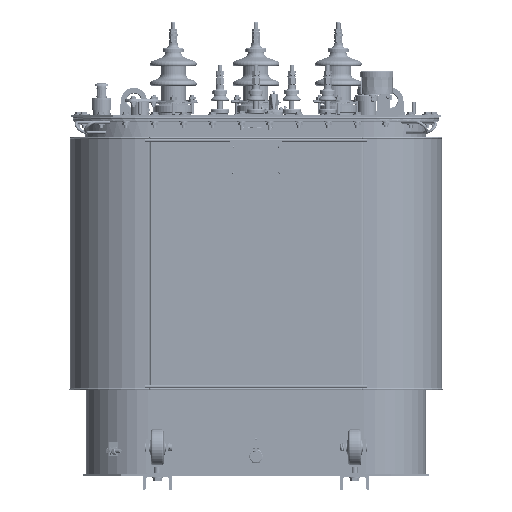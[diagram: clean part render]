
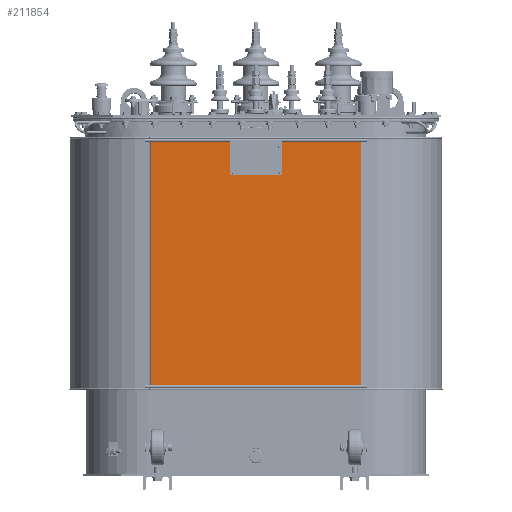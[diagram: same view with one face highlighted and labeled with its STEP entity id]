
A CAD part, front view. The second image highlights one B-rep face of the part: STEP entity #211854.
In plain terms, the highlighted planar face has unit normal (0, 1, 0).
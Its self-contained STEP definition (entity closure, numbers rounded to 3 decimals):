
#16419=PLANE('',#232050);
#29369=LINE('',#449164,#42305);
#29370=LINE('',#449168,#42306);
#29371=LINE('',#449170,#42307);
#29372=LINE('',#449171,#42308);
#42305=VECTOR('',#285116,10.);
#42306=VECTOR('',#285121,10.);
#42307=VECTOR('',#285122,10.);
#42308=VECTOR('',#285123,10.);
#57597=FACE_OUTER_BOUND('',#71287,.T.);
#71287=EDGE_LOOP('',(#186693,#186694,#186695,#186696));
#99042=VERTEX_POINT('',#449161);
#99043=VERTEX_POINT('',#449163);
#99044=VERTEX_POINT('',#449167);
#99045=VERTEX_POINT('',#449169);
#128266=EDGE_CURVE('',#99042,#99043,#29369,.T.);
#128268=EDGE_CURVE('',#99044,#99042,#29370,.T.);
#128269=EDGE_CURVE('',#99044,#99045,#29371,.T.);
#128270=EDGE_CURVE('',#99045,#99043,#29372,.T.);
#186693=ORIENTED_EDGE('',*,*,#128268,.F.);
#186694=ORIENTED_EDGE('',*,*,#128269,.T.);
#186695=ORIENTED_EDGE('',*,*,#128270,.T.);
#186696=ORIENTED_EDGE('',*,*,#128266,.F.);
#211854=ADVANCED_FACE('',(#57597),#16419,.F.);
#232050=AXIS2_PLACEMENT_3D('',#449166,#285119,#285120);
#285116=DIRECTION('',(0.,0.,-1.));
#285119=DIRECTION('center_axis',(0.,-1.,0.));
#285120=DIRECTION('ref_axis',(-1.,0.,0.));
#285121=DIRECTION('',(-1.,0.,0.));
#285122=DIRECTION('',(0.,0.,-1.));
#285123=DIRECTION('',(-1.,0.,0.));
#449161=CARTESIAN_POINT('',(-292.,-350.1,937.));
#449163=CARTESIAN_POINT('',(-292.,-350.1,237.));
#449164=CARTESIAN_POINT('',(-292.,-350.1,937.));
#449166=CARTESIAN_POINT('Origin',(292.,-350.1,937.));
#449167=CARTESIAN_POINT('',(292.,-350.1,937.));
#449168=CARTESIAN_POINT('',(292.,-350.1,937.));
#449169=CARTESIAN_POINT('',(292.,-350.1,237.));
#449170=CARTESIAN_POINT('',(292.,-350.1,937.));
#449171=CARTESIAN_POINT('',(292.,-350.1,237.));
